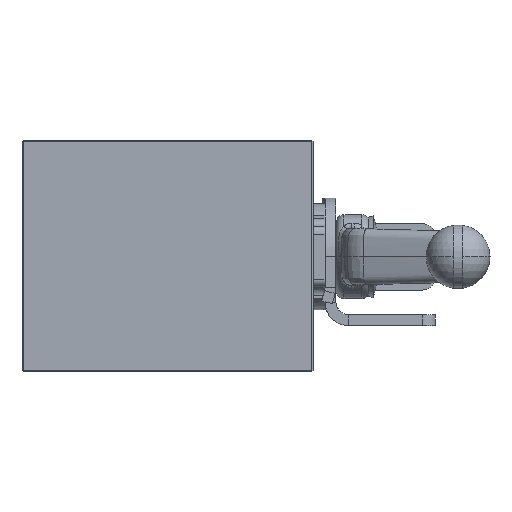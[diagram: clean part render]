
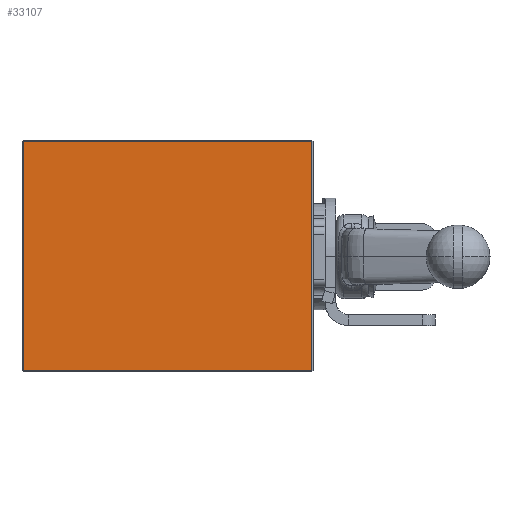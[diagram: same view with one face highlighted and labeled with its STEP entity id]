
A CAD part, front view. The second image highlights one B-rep face of the part: STEP entity #33107.
In plain terms, the highlighted planar face has unit normal (0, -1, 0).
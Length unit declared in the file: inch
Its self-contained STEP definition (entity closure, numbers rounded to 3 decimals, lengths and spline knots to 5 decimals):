
#2815 = PLANE ( 'NONE',  #48278 ) ;
#3226 = LINE ( 'NONE', #37665, #27753 ) ;
#9733 = ORIENTED_EDGE ( 'NONE', *, *, #32050, .T. ) ;
#10428 = ORIENTED_EDGE ( 'NONE', *, *, #12135, .T. ) ;
#12135 = EDGE_CURVE ( 'NONE', #29596, #34727, #3226, .T. ) ;
#13045 = VECTOR ( 'NONE', #36434, 39.37008 ) ;
#15725 = VERTEX_POINT ( 'NONE', #26840 ) ;
#17700 = CARTESIAN_POINT ( 'NONE',  ( -0.26694, -0.05331, 4.6926 ) ) ;
#18020 = DIRECTION ( 'NONE',  ( 0., 0., 1. ) ) ;
#21898 = CARTESIAN_POINT ( 'NONE',  ( -0.24694, -0.05331, 4.6726 ) ) ;
#22100 = LINE ( 'NONE', #26352, #13045 ) ;
#26352 = CARTESIAN_POINT ( 'NONE',  ( -0.24694, -0.05331, 4.6926 ) ) ;
#26840 = CARTESIAN_POINT ( 'NONE',  ( 4.08806, -0.05331, 4.6726 ) ) ;
#27753 = VECTOR ( 'NONE', #60230, 39.37008 ) ;
#29491 = CARTESIAN_POINT ( 'NONE',  ( 4.08806, -0.05331, 4.6926 ) ) ;
#29596 = VERTEX_POINT ( 'NONE', #50810 ) ;
#30727 = LINE ( 'NONE', #29491, #35615 ) ;
#30880 = EDGE_CURVE ( 'NONE', #15725, #51313, #54201, .T. ) ;
#32050 = EDGE_CURVE ( 'NONE', #51313, #29596, #22100, .T. ) ;
#33107 = ADVANCED_FACE ( 'NONE', ( #59500 ), #2815, .F. ) ;
#34727 = VERTEX_POINT ( 'NONE', #50582 ) ;
#35615 = VECTOR ( 'NONE', #48105, 39.37008 ) ;
#36434 = DIRECTION ( 'NONE',  ( 0., 0., -1. ) ) ;
#36812 = CARTESIAN_POINT ( 'NONE',  ( -0.26694, -0.05331, 4.6726 ) ) ;
#37665 = CARTESIAN_POINT ( 'NONE',  ( 4.10806, -0.05331, 1.2276 ) ) ;
#41292 = VECTOR ( 'NONE', #49610, 39.37008 ) ;
#45322 = ORIENTED_EDGE ( 'NONE', *, *, #58219, .T. ) ;
#48105 = DIRECTION ( 'NONE',  ( 0., 0., 1. ) ) ;
#48278 = AXIS2_PLACEMENT_3D ( 'NONE', #17700, #54342, #18020 ) ;
#49610 = DIRECTION ( 'NONE',  ( -1., 0., 0. ) ) ;
#50582 = CARTESIAN_POINT ( 'NONE',  ( 4.08806, -0.05331, 1.2276 ) ) ;
#50810 = CARTESIAN_POINT ( 'NONE',  ( -0.24694, -0.05331, 1.2276 ) ) ;
#51313 = VERTEX_POINT ( 'NONE', #21898 ) ;
#51592 = ORIENTED_EDGE ( 'NONE', *, *, #30880, .T. ) ;
#54201 = LINE ( 'NONE', #36812, #41292 ) ;
#54342 = DIRECTION ( 'NONE',  ( 0., 1., 0. ) ) ;
#58219 = EDGE_CURVE ( 'NONE', #34727, #15725, #30727, .T. ) ;
#59500 = FACE_OUTER_BOUND ( 'NONE', #59786, .T. ) ;
#59786 = EDGE_LOOP ( 'NONE', ( #45322, #51592, #9733, #10428 ) ) ;
#60230 = DIRECTION ( 'NONE',  ( 1., 0., 0. ) ) ;
